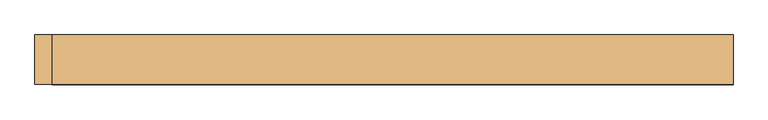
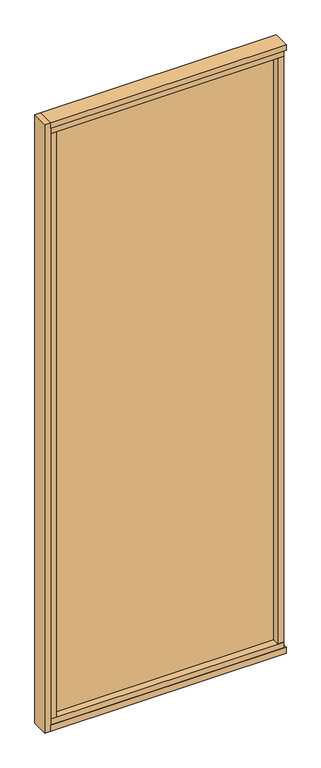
"""IFC4 building model written with IfcOpenShell, lengths in millimetres: door geometry, Mobiliário_Mobiliário de Escritório_Painel de Vidro Simples - AUT E AUL (Inicial e Final)_Marelli : AUT - Temperado."""

from ifc_helpers import new_model, si_unit, frame, origin, origin_with_axes, place, context, project, spatial, polyline, outline, extrude, source, transform, mapped, element, save


def door_76197cc9(model_context):
    return source(origin(), model_context, "Body", "SweptSolid", [
        extrude(outline(polyline([(600.0, 42.5), (600.0, -42.5), (-570.0, -42.5), (-570.0, 42.5), (600.0, 42.5)])), origin_with_axes(), (0.0, 0.0, 1.0), 30.0),
        extrude(outline(polyline([(590.0, 39.5), (590.0, -39.5), (-570.0, -39.5), (-570.0, 39.5), (590.0, 39.5)])), frame((0.0, 0.0, 30.0), z_axis=(0.0, 0.0, 1.0), x_axis=(1.0, 0.0, 0.0)), (0.0, 0.0, 1.0), 30.0),
        extrude(outline(polyline([(600.0, 42.5), (600.0, -42.5), (-570.0, -42.5), (-570.0, 42.5), (600.0, 42.5)])), frame((0.0, 0.0, 3170.0), z_axis=(0.0, 0.0, 1.0), x_axis=(1.0, 0.0, 0.0)), (0.0, 0.0, 1.0), 30.0),
        extrude(outline(polyline([(590.0, 39.5), (590.0, -39.5), (-570.0, -39.5), (-570.0, 39.5), (590.0, 39.5)])), frame((0.0, 0.0, 3140.0), z_axis=(0.0, 0.0, 1.0), x_axis=(1.0, 0.0, 0.0)), (0.0, 0.0, 1.0), 30.0),
        extrude(outline(polyline([(-600.0, -42.5), (-600.0, 42.5), (-570.0, 42.5), (-570.0, -42.5), (-600.0, -42.5)])), origin_with_axes(), (0.0, 0.0, 1.0), 3200.0),
        extrude(outline(polyline([(600.0, -21.5), (590.0, -21.5), (590.0, 21.5), (600.0, 21.5), (600.0, -21.5)])), frame((0.0, 0.0, 30.0), z_axis=(0.0, 0.0, 1.0), x_axis=(1.0, 0.0, 0.0)), (0.0, 0.0, 1.0), 3140.0),
        extrude(outline(polyline([(-540.0, 39.5), (-540.0, -39.5), (-570.0, -39.5), (-570.0, 39.5), (-540.0, 39.5)])), frame((0.0, 0.0, 60.0), z_axis=(0.0, 0.0, 1.0), x_axis=(1.0, 0.0, 0.0)), (0.0, 0.0, 1.0), 3080.0),
        extrude(outline(polyline([(560.0, 39.5), (590.0, 39.5), (590.0, -39.5), (560.0, -39.5), (560.0, 39.5)])), frame((0.0, 0.0, 60.0), z_axis=(0.0, 0.0, 1.0), x_axis=(1.0, 0.0, 0.0)), (0.0, 0.0, 1.0), 3080.0),
        extrude(outline(polyline([(560.0, 3.0), (560.0, -3.0), (-540.0, -3.0), (-540.0, 3.0), (560.0, 3.0)])), frame((0.0, 0.0, 60.0), z_axis=(0.0, 0.0, 1.0), x_axis=(1.0, 0.0, 0.0)), (0.0, 0.0, 1.0), 3080.0),
    ])


if __name__ == "__main__":
    model = new_model("IFC4")
    model_context = context("Model", 3, world=origin())
    ifc_project = project(units=[si_unit("LENGTHUNIT", "METRE", prefix="MILLI")], contexts=[model_context])
    site = spatial("IfcSite", under=ifc_project)
    building = spatial("IfcBuilding", under=site)
    placement = place(None, origin())
    door_shape = door_76197cc9(model_context)
    element("IfcDoor", 1, ObjectType="Mobiliário_Mobiliário de Escritório_Painel de Vidro Simples - AUT E AUL (Inicial e Final)_Marelli : AUT - Temperado", at=placement, inside=building, context=model_context, shape_type="MappedRepresentation", body=[
        mapped(door_shape, transform((0.0, 0.0, 0.0), x_axis=(1.0, 0.0, 0.0), y_axis=(0.0, 1.0, 0.0), z_axis=(0.0, 0.0, 1.0))),
    ])
    save(model, "model.ifc")
